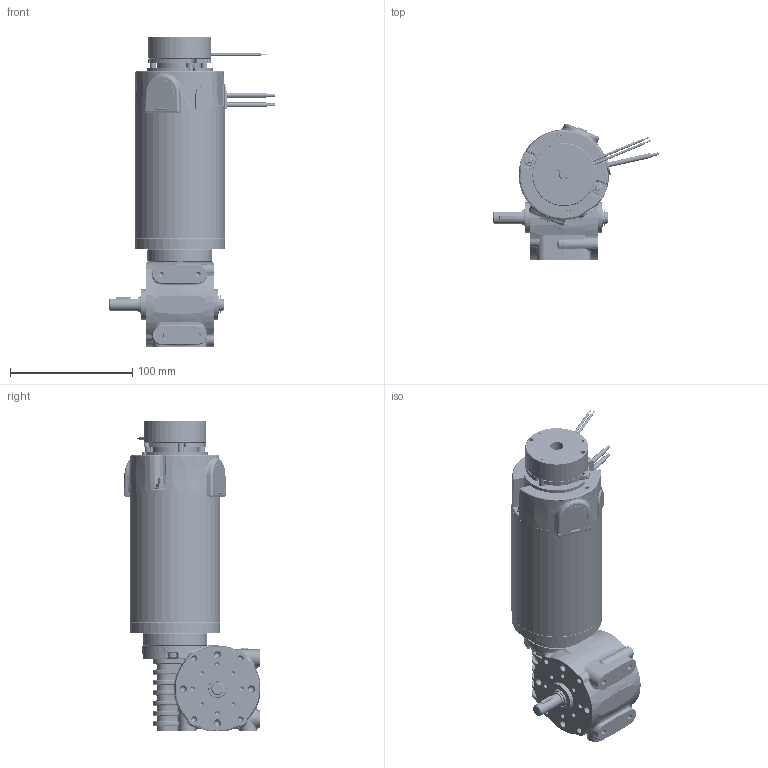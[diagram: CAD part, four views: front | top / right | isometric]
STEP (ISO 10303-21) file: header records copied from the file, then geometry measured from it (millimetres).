
FILE_DESCRIPTION (( 'STEP AP214' ), '1' );
FILE_NAME ('BRx70-60-GB80 - Brake - Shaft.STEP', '2025-04-29T07:52:28', ( '' ), ( '' ), 'SwSTEP 2.0', 'SolidWorks 2023', '' );
FILE_SCHEMA (( 'AUTOMOTIVE_DESIGN' ));
Length unit declared in the file: millimetre
Products named in the file (1): BRx70-60-GB80 - Brake - Shaft
Bounding box: 136.02 x 111.85 x 254.74 mm (x, y, z)
Volume: 517058 mm3; surface area: 230379.8 mm2
Topology: 51 solids, 51 shells, 5141 faces, 13154 edges, 8138 vertices
Faces by surface type: cylinder 2434, plane 944, bspline 619, cone 577, torus 491, sphere 76
Entity records: 250846 total; most frequent: CARTESIAN_POINT 73216, ORIENTED_EDGE 25972, DIRECTION 25288, EDGE_CURVE 12986, AXIS2_PLACEMENT_3D 10393, VERTEX_POINT 8138, CIRCLE 5870, EDGE_LOOP 5448
